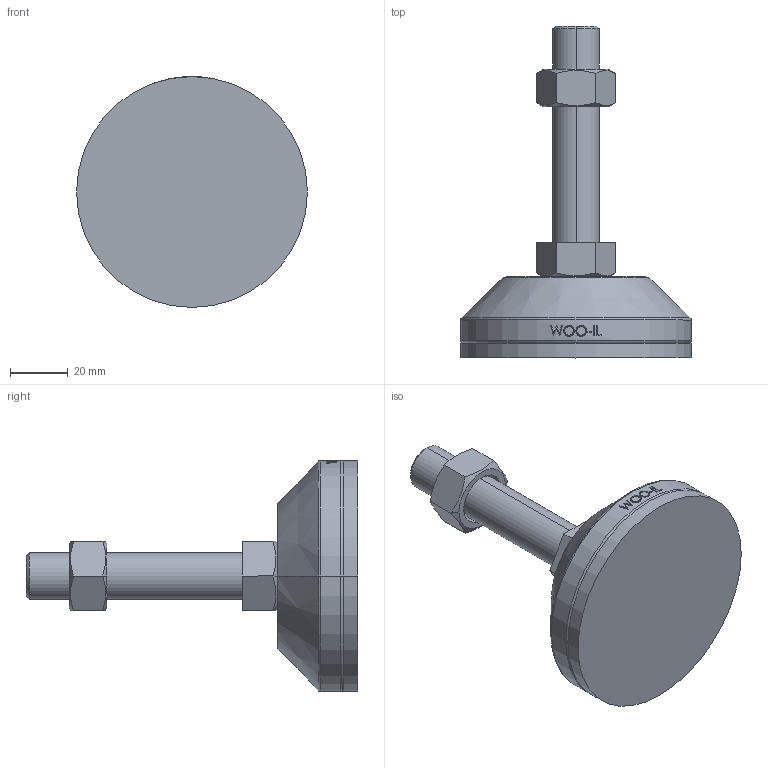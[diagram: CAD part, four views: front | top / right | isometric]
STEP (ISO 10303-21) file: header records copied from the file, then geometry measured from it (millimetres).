
FILE_DESCRIPTION (( 'STEP AP214' ), '1' );
FILE_NAME ('NHNR80-M16-75.step', '2021-01-25T06:22:12', ( '' ), ( '' ), 'SwSTEP 2.0', 'SolidWorks 2019', '' );
FILE_SCHEMA (( 'AUTOMOTIVE_DESIGN' ));
Length unit declared in the file: millimetre
Products named in the file (2): NHNR80-M16-75
Bounding box: 80 x 115 x 80 mm (x, y, z)
Volume: 140822.7 mm3; surface area: 32747.6 mm2
Topology: 4 solids, 4 shells, 105 faces, 239 edges, 152 vertices
Faces by surface type: plane 49, cylinder 18, bspline 16, cone 14, torus 8
Entity records: 4363 total; most frequent: CARTESIAN_POINT 2046, ORIENTED_EDGE 478, DIRECTION 429, EDGE_CURVE 239, AXIS2_PLACEMENT_3D 165, VERTEX_POINT 152, EDGE_LOOP 117, ADVANCED_FACE 105
